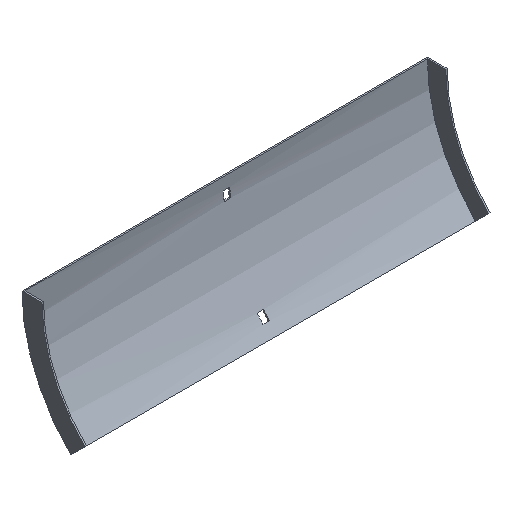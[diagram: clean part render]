
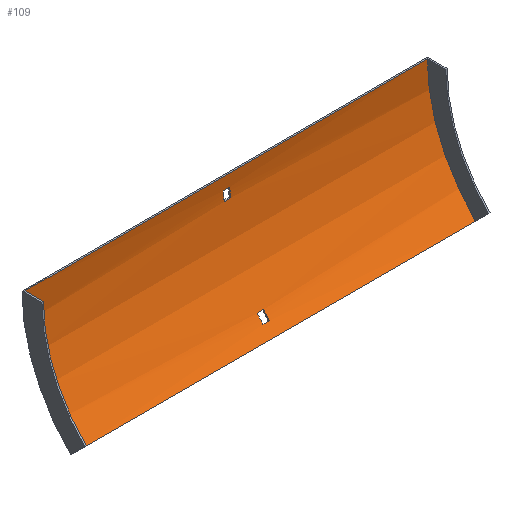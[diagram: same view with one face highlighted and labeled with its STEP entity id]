
A CAD part, isometric view. The second image highlights one B-rep face of the part: STEP entity #109.
In plain terms, the highlighted cylindrical face has radius 165.5 mm (diameter 331 mm), a partial arc.
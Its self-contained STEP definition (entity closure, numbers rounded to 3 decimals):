
#2 = VERTEX_POINT ( 'NONE', #345 ) ;
#7 = CARTESIAN_POINT ( 'NONE',  ( 203.5, -1.936, -12. ) ) ;
#12 = DIRECTION ( 'NONE',  ( -1., 0., 0. ) ) ;
#20 = CIRCLE ( 'NONE', #604, 165.5 ) ;
#22 = FACE_BOUND ( 'NONE', #306, .T. ) ;
#23 = DIRECTION ( 'NONE',  ( 0., 0., -1. ) ) ;
#37 = CARTESIAN_POINT ( 'NONE',  ( 3.25, -1.936, -12. ) ) ;
#39 = ORIENTED_EDGE ( 'NONE', *, *, #390, .T. ) ;
#46 = ORIENTED_EDGE ( 'NONE', *, *, #368, .T. ) ;
#50 = DIRECTION ( 'NONE',  ( 1., 0., 0. ) ) ;
#59 = VERTEX_POINT ( 'NONE', #119 ) ;
#64 = LINE ( 'NONE', #386, #501 ) ;
#75 = VERTEX_POINT ( 'NONE', #242 ) ;
#76 = AXIS2_PLACEMENT_3D ( 'NONE', #305, #359, #544 ) ;
#88 = CARTESIAN_POINT ( 'NONE',  ( -3.25, -2.838, -21. ) ) ;
#89 = DIRECTION ( 'NONE',  ( 0., 0., -1. ) ) ;
#90 = VERTEX_POINT ( 'NONE', #393 ) ;
#91 = DIRECTION ( 'NONE',  ( 1., 0., 0. ) ) ;
#96 = VECTOR ( 'NONE', #481, 1000. ) ;
#98 = DIRECTION ( 'NONE',  ( 0., 0., 1. ) ) ;
#100 = DIRECTION ( 'NONE',  ( -1., 0., 0. ) ) ;
#109 = ADVANCED_FACE ( 'NONE', ( #22, #576, #300 ), #349, .F. ) ;
#119 = CARTESIAN_POINT ( 'NONE',  ( 202., -1.5, 0. ) ) ;
#123 = ORIENTED_EDGE ( 'NONE', *, *, #220, .T. ) ;
#131 = AXIS2_PLACEMENT_3D ( 'NONE', #156, #444, #23 ) ;
#142 = EDGE_LOOP ( 'NONE', ( #46, #360, #123, #39 ) ) ;
#146 = EDGE_CURVE ( 'NONE', #503, #75, #227, .T. ) ;
#151 = ORIENTED_EDGE ( 'NONE', *, *, #163, .F. ) ;
#152 = CARTESIAN_POINT ( 'NONE',  ( 3.25, -41.797, -108.233 ) ) ;
#156 = CARTESIAN_POINT ( 'NONE',  ( 3.25, -167., 0. ) ) ;
#163 = EDGE_CURVE ( 'NONE', #298, #2, #607, .T. ) ;
#170 = LINE ( 'NONE', #352, #259 ) ;
#171 = VERTEX_POINT ( 'NONE', #88 ) ;
#173 = VERTEX_POINT ( 'NONE', #193 ) ;
#191 = CARTESIAN_POINT ( 'NONE',  ( -3.25, -41.797, -108.233 ) ) ;
#193 = CARTESIAN_POINT ( 'NONE',  ( 3.25, -2.838, -21. ) ) ;
#194 = DIRECTION ( 'NONE',  ( 1., 0., 0. ) ) ;
#195 = ORIENTED_EDGE ( 'NONE', *, *, #318, .T. ) ;
#209 = CARTESIAN_POINT ( 'NONE',  ( 3.25, -36.071, -101.231 ) ) ;
#215 = EDGE_CURVE ( 'NONE', #2, #90, #473, .T. ) ;
#219 = ORIENTED_EDGE ( 'NONE', *, *, #265, .T. ) ;
#220 = EDGE_CURVE ( 'NONE', #317, #363, #464, .T. ) ;
#227 = LINE ( 'NONE', #7, #339 ) ;
#241 = CIRCLE ( 'NONE', #602, 165.5 ) ;
#242 = CARTESIAN_POINT ( 'NONE',  ( -3.25, -1.936, -12. ) ) ;
#247 = VERTEX_POINT ( 'NONE', #152 ) ;
#249 = DIRECTION ( 'NONE',  ( 0., 0., 1. ) ) ;
#254 = DIRECTION ( 'NONE',  ( 0., 0., 1. ) ) ;
#259 = VECTOR ( 'NONE', #539, 1000. ) ;
#263 = ORIENTED_EDGE ( 'NONE', *, *, #215, .F. ) ;
#265 = EDGE_CURVE ( 'NONE', #298, #59, #20, .T. ) ;
#275 = DIRECTION ( 'NONE',  ( 1., 0., 0. ) ) ;
#281 = EDGE_CURVE ( 'NONE', #173, #503, #361, .T. ) ;
#287 = ORIENTED_EDGE ( 'NONE', *, *, #281, .F. ) ;
#298 = VERTEX_POINT ( 'NONE', #533 ) ;
#300 = FACE_BOUND ( 'NONE', #142, .T. ) ;
#305 = CARTESIAN_POINT ( 'NONE',  ( -3.25, -167., 0. ) ) ;
#306 = EDGE_LOOP ( 'NONE', ( #561, #482, #287, #404 ) ) ;
#314 = AXIS2_PLACEMENT_3D ( 'NONE', #315, #194, #89 ) ;
#315 = CARTESIAN_POINT ( 'NONE',  ( -3.25, -167., 0. ) ) ;
#317 = VERTEX_POINT ( 'NONE', #488 ) ;
#318 = EDGE_CURVE ( 'NONE', #59, #90, #398, .T. ) ;
#339 = VECTOR ( 'NONE', #422, 1000. ) ;
#345 = CARTESIAN_POINT ( 'NONE',  ( -202., -49.974, -117.026 ) ) ;
#349 = CYLINDRICAL_SURFACE ( 'NONE', #407, 165.5 ) ;
#352 = CARTESIAN_POINT ( 'NONE',  ( 203.5, -2.838, -21. ) ) ;
#359 = DIRECTION ( 'NONE',  ( -1., 0., 0. ) ) ;
#360 = ORIENTED_EDGE ( 'NONE', *, *, #531, .T. ) ;
#361 = CIRCLE ( 'NONE', #131, 165.5 ) ;
#363 = VERTEX_POINT ( 'NONE', #209 ) ;
#368 = EDGE_CURVE ( 'NONE', #247, #606, #64, .T. ) ;
#373 = CARTESIAN_POINT ( 'NONE',  ( 202., -167., 0. ) ) ;
#384 = CARTESIAN_POINT ( 'NONE',  ( 202., -1.5, 0. ) ) ;
#386 = CARTESIAN_POINT ( 'NONE',  ( 203.5, -41.797, -108.233 ) ) ;
#390 = EDGE_CURVE ( 'NONE', #363, #247, #241, .T. ) ;
#391 = CARTESIAN_POINT ( 'NONE',  ( 3.25, -167., 0. ) ) ;
#392 = VECTOR ( 'NONE', #91, 1000. ) ;
#393 = CARTESIAN_POINT ( 'NONE',  ( -202., -1.5, 0. ) ) ;
#398 = LINE ( 'NONE', #384, #96 ) ;
#400 = CARTESIAN_POINT ( 'NONE',  ( 203.5, -167., 0. ) ) ;
#404 = ORIENTED_EDGE ( 'NONE', *, *, #490, .F. ) ;
#407 = AXIS2_PLACEMENT_3D ( 'NONE', #400, #537, #254 ) ;
#422 = DIRECTION ( 'NONE',  ( -1., 0., 0. ) ) ;
#444 = DIRECTION ( 'NONE',  ( 1., 0., 0. ) ) ;
#445 = AXIS2_PLACEMENT_3D ( 'NONE', #518, #50, #98 ) ;
#455 = VECTOR ( 'NONE', #100, 1000. ) ;
#463 = EDGE_LOOP ( 'NONE', ( #263, #151, #219, #195 ) ) ;
#464 = LINE ( 'NONE', #559, #392 ) ;
#473 = CIRCLE ( 'NONE', #445, 165.5 ) ;
#481 = DIRECTION ( 'NONE',  ( -1., 0., 0. ) ) ;
#482 = ORIENTED_EDGE ( 'NONE', *, *, #146, .F. ) ;
#488 = CARTESIAN_POINT ( 'NONE',  ( -3.25, -36.071, -101.231 ) ) ;
#490 = EDGE_CURVE ( 'NONE', #171, #173, #170, .T. ) ;
#500 = EDGE_CURVE ( 'NONE', #75, #171, #508, .T. ) ;
#501 = VECTOR ( 'NONE', #569, 1000. ) ;
#503 = VERTEX_POINT ( 'NONE', #37 ) ;
#508 = CIRCLE ( 'NONE', #76, 165.5 ) ;
#511 = CARTESIAN_POINT ( 'NONE',  ( 202., -49.974, -117.026 ) ) ;
#514 = DIRECTION ( 'NONE',  ( 0., 0., 1. ) ) ;
#518 = CARTESIAN_POINT ( 'NONE',  ( -202., -167., 0. ) ) ;
#531 = EDGE_CURVE ( 'NONE', #606, #317, #579, .T. ) ;
#533 = CARTESIAN_POINT ( 'NONE',  ( 202., -49.974, -117.026 ) ) ;
#537 = DIRECTION ( 'NONE',  ( -1., 0., 0. ) ) ;
#539 = DIRECTION ( 'NONE',  ( 1., 0., 0. ) ) ;
#544 = DIRECTION ( 'NONE',  ( 0., 0., 1. ) ) ;
#559 = CARTESIAN_POINT ( 'NONE',  ( 203.5, -36.071, -101.231 ) ) ;
#561 = ORIENTED_EDGE ( 'NONE', *, *, #500, .F. ) ;
#569 = DIRECTION ( 'NONE',  ( -1., 0., 0. ) ) ;
#576 = FACE_OUTER_BOUND ( 'NONE', #463, .T. ) ;
#579 = CIRCLE ( 'NONE', #314, 165.5 ) ;
#602 = AXIS2_PLACEMENT_3D ( 'NONE', #391, #12, #249 ) ;
#604 = AXIS2_PLACEMENT_3D ( 'NONE', #373, #275, #514 ) ;
#606 = VERTEX_POINT ( 'NONE', #191 ) ;
#607 = LINE ( 'NONE', #511, #455 ) ;
